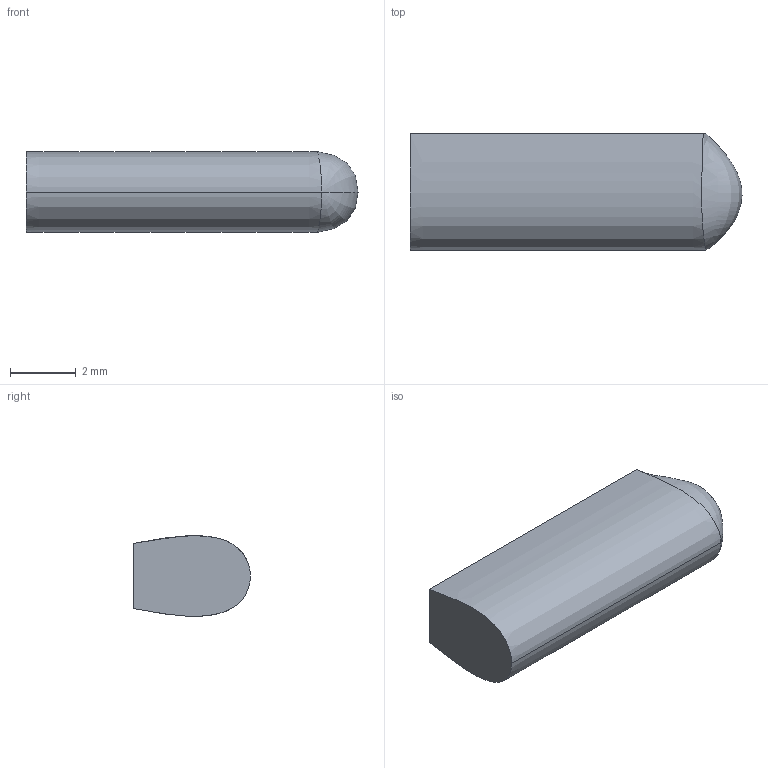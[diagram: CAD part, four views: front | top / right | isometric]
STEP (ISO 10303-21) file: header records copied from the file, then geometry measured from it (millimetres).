
FILE_DESCRIPTION((''),'1');
FILE_NAME('ELEK-ST12-16R','2001-03-30T',('rgoetz'),(''),'PRO/ENGINEER BY PARAMETRIC TECHNOLOGY CORPORATION, 2000350','PRO/ENGINEER BY PARAMETRIC TECHNOLOGY CORPORATION, 2000350','');
FILE_SCHEMA(('CONFIG_CONTROL_DESIGN'));
Length unit declared in the file: millimetre
Products named in the file (1): ELEK-ST12-16R
Bounding box: 10.1 x 3.55 x 2.46 mm (x, y, z)
Volume: 73.2 mm3; surface area: 112.8 mm2
Topology: 1 solids, 1 shells, 6 faces, 13 edges, 7 vertices
Faces by surface type: plane 2, extrusion 2, bspline 2
Entity records: 647 total; most frequent: CARTESIAN_POINT 506, ORIENTED_EDGE 22, EDGE_CURVE 11, DIRECTION 10, B_SPLINE_CURVE_WITH_KNOTS 9, VERTEX_POINT 7, VECTOR 6, EDGE_LOOP 6
